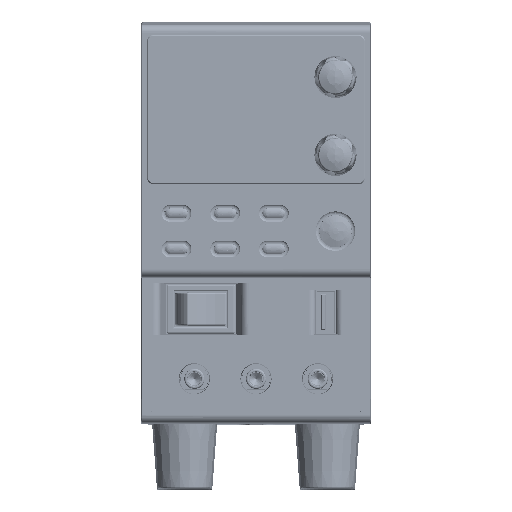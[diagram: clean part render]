
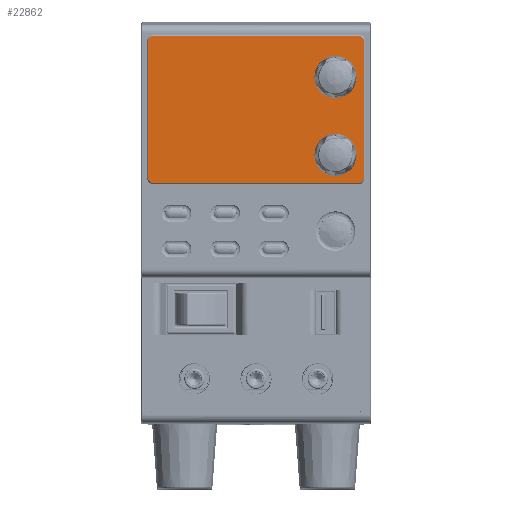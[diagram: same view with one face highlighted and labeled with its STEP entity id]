
A CAD part, top view. The second image highlights one B-rep face of the part: STEP entity #22862.
In plain terms, the highlighted planar face has unit normal (0, 0, 1).
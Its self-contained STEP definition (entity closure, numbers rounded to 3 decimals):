
#22527=CARTESIAN_POINT('',(-31.7,21.,2.));
#22528=DIRECTION('',(0.,0.,-1.));
#22529=DIRECTION('',(-1.,0.,0.));
#22530=AXIS2_PLACEMENT_3D('',#22527,#22528,#22529);
#22532=DIRECTION('',(1.,0.,0.));
#22533=VECTOR('',#22532,63.4);
#22534=CARTESIAN_POINT('',(-31.7,22.6,
2.));
#22535=LINE('',#22534,#22533);
#22536=CARTESIAN_POINT('',(31.7,21.,2.));
#22537=DIRECTION('',(0.,0.,-1.));
#22538=DIRECTION('',(0.,1.,0.));
#22539=AXIS2_PLACEMENT_3D('',#22536,#22537,#22538);
#22541=DIRECTION('',(0.,-1.,0.));
#22542=VECTOR('',#22541,42.);
#22543=CARTESIAN_POINT('',(33.3,21.,2.));
#22544=LINE('',#22543,#22542);
#22545=CARTESIAN_POINT('',(31.7,-21.,2.));
#22546=DIRECTION('',(0.,0.,-1.));
#22547=DIRECTION('',(1.,0.,0.));
#22548=AXIS2_PLACEMENT_3D('',#22545,#22546,#22547);
#22550=DIRECTION('',(-1.,0.,0.));
#22551=VECTOR('',#22550,63.4);
#22552=CARTESIAN_POINT('',(31.7,-22.6,
2.));
#22553=LINE('',#22552,#22551);
#22554=CARTESIAN_POINT('',(-31.7,-21.,2.));
#22555=DIRECTION('',(0.,0.,-1.));
#22556=DIRECTION('',(0.,-1.,0.));
#22557=AXIS2_PLACEMENT_3D('',#22554,#22555,#22556);
#22559=DIRECTION('',(0.,1.,0.));
#22560=VECTOR('',#22559,42.);
#22561=CARTESIAN_POINT('',(-33.3,-21.,
2.));
#22562=LINE('',#22561,#22560);
#22563=CARTESIAN_POINT('',(24.5,10.,2.));
#22564=DIRECTION('',(0.,0.,1.));
#22565=DIRECTION('',(1.,0.,0.));
#22566=AXIS2_PLACEMENT_3D('',#22563,#22564,#22565);
#22568=CARTESIAN_POINT('',(24.5,10.,2.));
#22569=DIRECTION('',(0.,0.,1.));
#22570=DIRECTION('',(-1.,0.,0.));
#22571=AXIS2_PLACEMENT_3D('',#22568,#22569,#22570);
#22573=CARTESIAN_POINT('',(24.5,-14.,2.));
#22574=DIRECTION('',(0.,0.,1.));
#22575=DIRECTION('',(1.,0.,0.));
#22576=AXIS2_PLACEMENT_3D('',#22573,#22574,#22575);
#22578=CARTESIAN_POINT('',(24.5,-14.,2.));
#22579=DIRECTION('',(0.,0.,1.));
#22580=DIRECTION('',(-1.,0.,0.));
#22581=AXIS2_PLACEMENT_3D('',#22578,#22579,#22580);
#22726=CARTESIAN_POINT('',(-33.3,21.,
2.));
#22727=CARTESIAN_POINT('',(-31.7,22.6,
2.));
#22728=VERTEX_POINT('',#22726);
#22729=VERTEX_POINT('',#22727);
#22730=CARTESIAN_POINT('',(31.7,22.6,2.));
#22731=VERTEX_POINT('',#22730);
#22732=CARTESIAN_POINT('',(33.3,21.,2.));
#22733=VERTEX_POINT('',#22732);
#22734=CARTESIAN_POINT('',(33.3,-21.,
2.));
#22735=VERTEX_POINT('',#22734);
#22736=CARTESIAN_POINT('',(31.7,-22.6,
2.));
#22737=VERTEX_POINT('',#22736);
#22738=CARTESIAN_POINT('',(-31.7,-22.6,
2.));
#22739=VERTEX_POINT('',#22738);
#22740=CARTESIAN_POINT('',(-33.3,-21.,
2.));
#22741=VERTEX_POINT('',#22740);
#22742=CARTESIAN_POINT('',(28.5,10.,2.));
#22743=CARTESIAN_POINT('',(20.5,10.,2.));
#22744=VERTEX_POINT('',#22742);
#22745=VERTEX_POINT('',#22743);
#22746=CARTESIAN_POINT('',(28.5,-14.,2.));
#22747=CARTESIAN_POINT('',(20.5,-14.,2.));
#22748=VERTEX_POINT('',#22746);
#22749=VERTEX_POINT('',#22747);
#22828=CARTESIAN_POINT('',(0.,0.,2.));
#22829=DIRECTION('',(0.,0.,1.));
#22830=DIRECTION('',(1.,0.,0.));
#22831=AXIS2_PLACEMENT_3D('',#22828,#22829,#22830);
#22832=PLANE('',#22831);
#22833=ORIENTED_EDGE('',*,*,#22818,.T.);
#22835=ORIENTED_EDGE('',*,*,#22834,.T.);
#22837=ORIENTED_EDGE('',*,*,#22836,.T.);
#22839=ORIENTED_EDGE('',*,*,#22838,.T.);
#22841=ORIENTED_EDGE('',*,*,#22840,.T.);
#22843=ORIENTED_EDGE('',*,*,#22842,.T.);
#22845=ORIENTED_EDGE('',*,*,#22844,.T.);
#22847=ORIENTED_EDGE('',*,*,#22846,.T.);
#22848=EDGE_LOOP('',(#22833,#22835,#22837,#22839,#22841,#22843,#22845,#22847));
#22849=FACE_OUTER_BOUND('',#22848,.F.);
#22851=ORIENTED_EDGE('',*,*,#22850,.T.);
#22853=ORIENTED_EDGE('',*,*,#22852,.T.);
#22854=EDGE_LOOP('',(#22851,#22853));
#22855=FACE_BOUND('',#22854,.F.);
#22857=ORIENTED_EDGE('',*,*,#22856,.T.);
#22859=ORIENTED_EDGE('',*,*,#22858,.T.);
#22860=EDGE_LOOP('',(#22857,#22859));
#22861=FACE_BOUND('',#22860,.F.);
#22862=ADVANCED_FACE('',(#22849,#22855,#22861),#22832,.T.);
#22531=CIRCLE('',#22530,1.6);
#22540=CIRCLE('',#22539,1.6);
#22549=CIRCLE('',#22548,1.6);
#22558=CIRCLE('',#22557,1.6);
#22567=CIRCLE('',#22566,4.);
#22572=CIRCLE('',#22571,4.);
#22577=CIRCLE('',#22576,4.);
#22582=CIRCLE('',#22581,4.);
#22818=EDGE_CURVE('',#22728,#22729,#22531,.T.);
#22834=EDGE_CURVE('',#22729,#22731,#22535,.T.);
#22836=EDGE_CURVE('',#22731,#22733,#22540,.T.);
#22838=EDGE_CURVE('',#22733,#22735,#22544,.T.);
#22840=EDGE_CURVE('',#22735,#22737,#22549,.T.);
#22842=EDGE_CURVE('',#22737,#22739,#22553,.T.);
#22844=EDGE_CURVE('',#22739,#22741,#22558,.T.);
#22846=EDGE_CURVE('',#22741,#22728,#22562,.T.);
#22850=EDGE_CURVE('',#22744,#22745,#22567,.T.);
#22852=EDGE_CURVE('',#22745,#22744,#22572,.T.);
#22856=EDGE_CURVE('',#22748,#22749,#22577,.T.);
#22858=EDGE_CURVE('',#22749,#22748,#22582,.T.);
